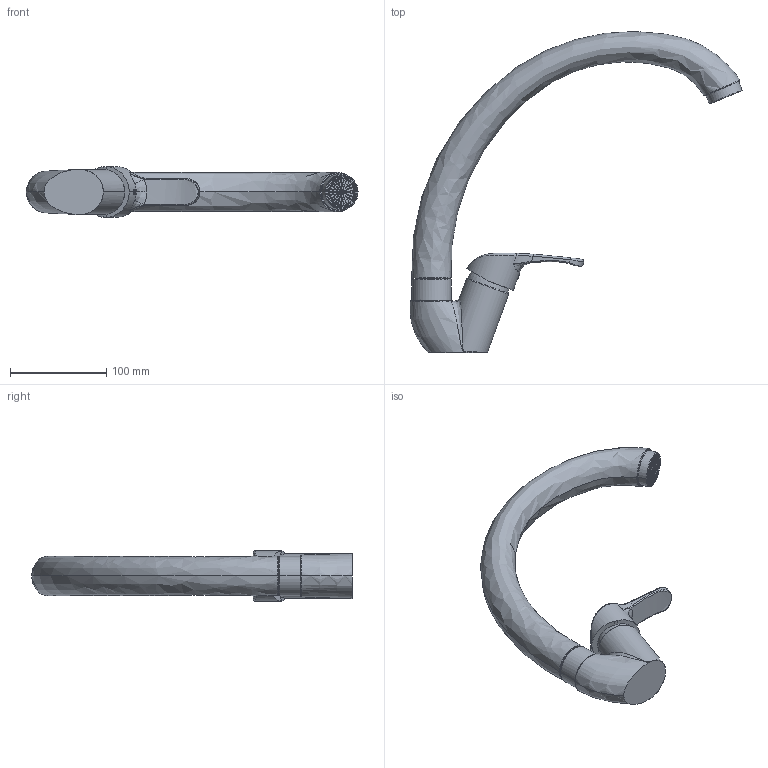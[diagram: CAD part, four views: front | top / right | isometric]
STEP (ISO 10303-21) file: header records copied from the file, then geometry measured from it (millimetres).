
FILE_DESCRIPTION (( 'STEP AP203' ), '1' );
FILE_NAME ('42CR570599TR21LMKM.STEP', '2020-04-13T17:33:49', ( '' ), ( '' ), 'SwSTEP 2.0', 'SolidWorks 2018', '' );
FILE_SCHEMA (( 'CONFIG_CONTROL_DESIGN' ));
Length unit declared in the file: millimetre
Products named in the file (1): 42CR570599TR21LMKM
Bounding box: 345.41 x 333.95 x 53 mm (x, y, z)
Volume: 858510.7 mm3; surface area: 96257.7 mm2
Topology: 2 solids, 2 shells, 391 faces, 1101 edges, 574 vertices
Faces by surface type: cone 286, bspline 49, cylinder 23, plane 18, torus 14, sphere 1
Entity records: 20417 total; most frequent: CARTESIAN_POINT 11920, DIRECTION 1750, ORIENTED_EDGE 1624, EDGE_CURVE 812, AXIS2_PLACEMENT_3D 717, VERTEX_POINT 573, EDGE_LOOP 539, ADVANCED_FACE 391
